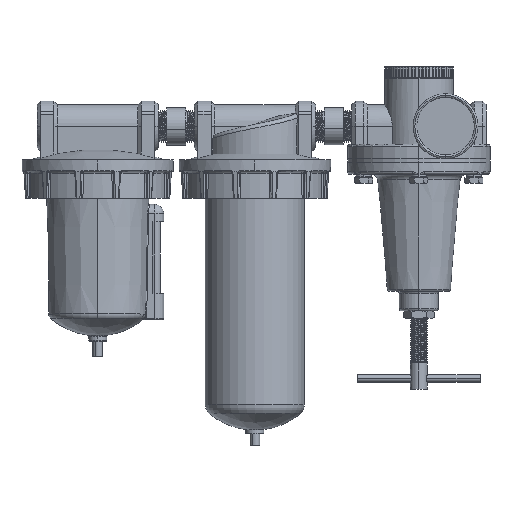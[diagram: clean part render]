
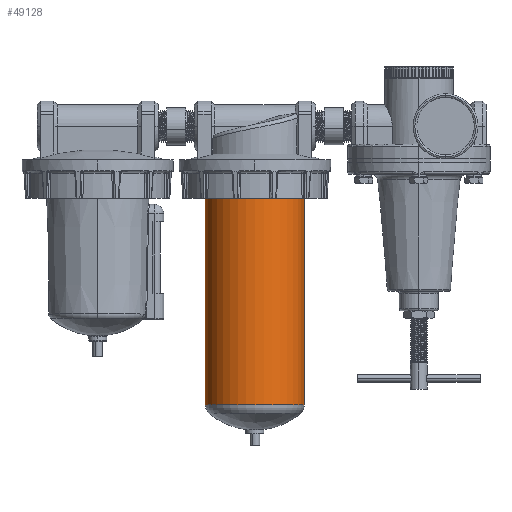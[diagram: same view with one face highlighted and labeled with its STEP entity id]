
A CAD part, top view. The second image highlights one B-rep face of the part: STEP entity #49128.
In plain terms, the highlighted cylindrical face has radius 41.25 mm (diameter 82.5 mm), a partial arc.
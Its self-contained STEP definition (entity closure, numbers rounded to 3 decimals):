
#148 = VECTOR ( 'NONE', #8716, 1000. ) ;
#2065 = CARTESIAN_POINT ( 'NONE',  ( 41.25, -171.82, 0. ) ) ;
#4686 = AXIS2_PLACEMENT_3D ( 'NONE', #8742, #56804, #57218 ) ;
#6792 = AXIS2_PLACEMENT_3D ( 'NONE', #47662, #9943, #18824 ) ;
#8716 = DIRECTION ( 'NONE',  ( 0., 1., 0. ) ) ;
#8742 = CARTESIAN_POINT ( 'NONE',  ( 0., 0., 0. ) ) ;
#9943 = DIRECTION ( 'NONE',  ( 0., 1., 0. ) ) ;
#17579 = CARTESIAN_POINT ( 'NONE',  ( -41.25, -171.82, 0. ) ) ;
#18115 = EDGE_CURVE ( 'NONE', #50384, #27813, #43828, .T. ) ;
#18824 = DIRECTION ( 'NONE',  ( -1., 0., 0. ) ) ;
#20630 = DIRECTION ( 'NONE',  ( -1., 0., 0. ) ) ;
#21139 = CARTESIAN_POINT ( 'NONE',  ( -41.25, 0., 0. ) ) ;
#22950 = ORIENTED_EDGE ( 'NONE', *, *, #51513, .T. ) ;
#24097 = CARTESIAN_POINT ( 'NONE',  ( 41.25, 0., 0. ) ) ;
#27813 = VERTEX_POINT ( 'NONE', #21139 ) ;
#31272 = EDGE_CURVE ( 'NONE', #27813, #34160, #38044, .T. ) ;
#33968 = DIRECTION ( 'NONE',  ( 0., 1., 0. ) ) ;
#34160 = VERTEX_POINT ( 'NONE', #38558 ) ;
#36120 = ORIENTED_EDGE ( 'NONE', *, *, #31272, .F. ) ;
#36938 = CYLINDRICAL_SURFACE ( 'NONE', #4686, 41.25 ) ;
#38044 = CIRCLE ( 'NONE', #61326, 41.25 ) ;
#38441 = EDGE_LOOP ( 'NONE', ( #22950, #53180, #36120, #42964 ) ) ;
#38558 = CARTESIAN_POINT ( 'NONE',  ( 41.25, 0., 0. ) ) ;
#42964 = ORIENTED_EDGE ( 'NONE', *, *, #18115, .F. ) ;
#43828 = LINE ( 'NONE', #61605, #148 ) ;
#44936 = VECTOR ( 'NONE', #33968, 1000. ) ;
#47662 = CARTESIAN_POINT ( 'NONE',  ( 0., -171.82, 0. ) ) ;
#49128 = ADVANCED_FACE ( 'NONE', ( #55790 ), #36938, .T. ) ;
#49474 = CARTESIAN_POINT ( 'NONE',  ( 0., 0., 0. ) ) ;
#50384 = VERTEX_POINT ( 'NONE', #17579 ) ;
#51513 = EDGE_CURVE ( 'NONE', #50384, #61376, #59435, .T. ) ;
#53180 = ORIENTED_EDGE ( 'NONE', *, *, #61913, .T. ) ;
#55790 = FACE_OUTER_BOUND ( 'NONE', #38441, .T. ) ;
#56804 = DIRECTION ( 'NONE',  ( 0., 1., 0. ) ) ;
#57218 = DIRECTION ( 'NONE',  ( -1., 0., 0. ) ) ;
#57769 = LINE ( 'NONE', #24097, #44936 ) ;
#59184 = DIRECTION ( 'NONE',  ( 0., 1., 0. ) ) ;
#59435 = CIRCLE ( 'NONE', #6792, 41.25 ) ;
#61326 = AXIS2_PLACEMENT_3D ( 'NONE', #49474, #59184, #20630 ) ;
#61376 = VERTEX_POINT ( 'NONE', #2065 ) ;
#61605 = CARTESIAN_POINT ( 'NONE',  ( -41.25, 0., 0. ) ) ;
#61913 = EDGE_CURVE ( 'NONE', #61376, #34160, #57769, .T. ) ;
